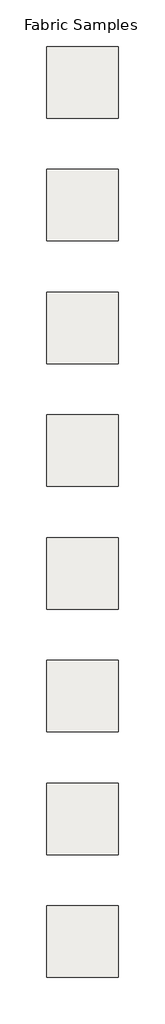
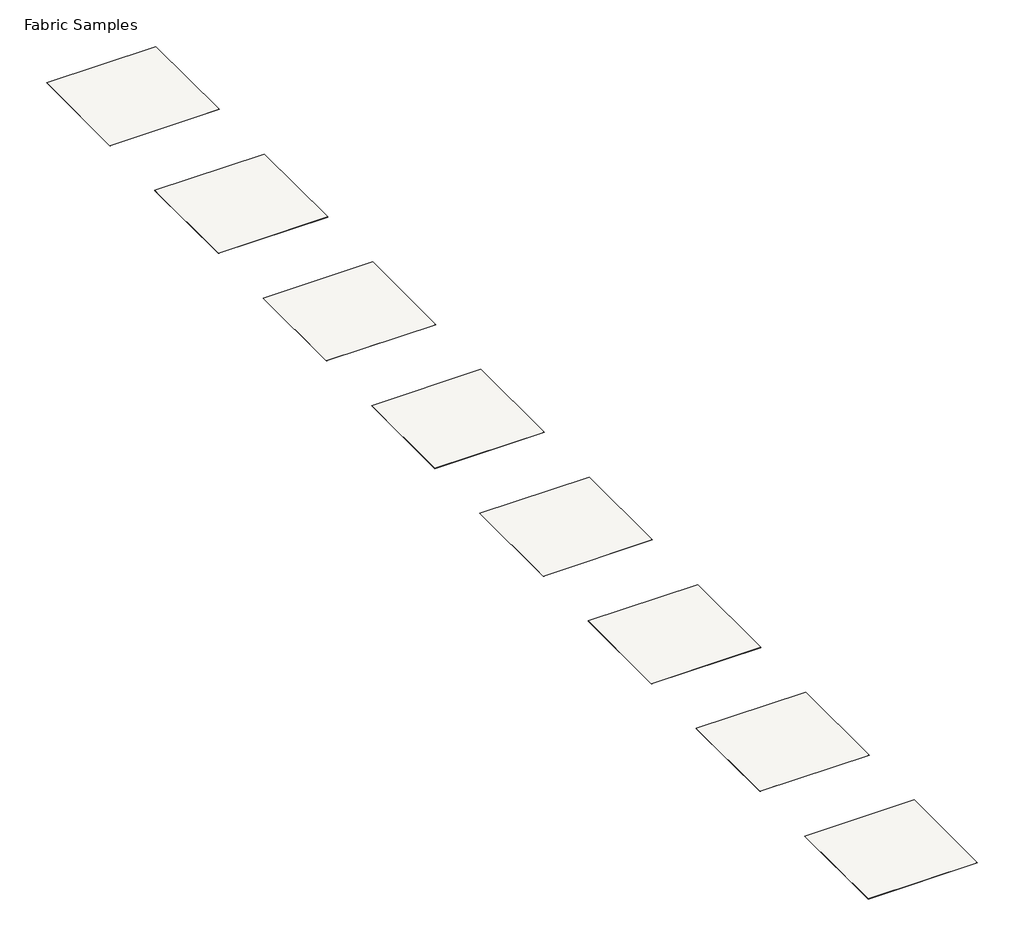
# One storey: 8 coverings.
"""IFC4 building model written with IfcOpenShell, lengths in millimetres."""

from ifc_helpers import new_model, si_unit, frame, origin, place, context, project, spatial, polyline, outline, extrude, element, save

model = new_model("IFC4")

# Units and contexts
model_context = context("Model", 3, world=origin())
ifc_project = project(units=[si_unit("LENGTHUNIT", "METRE", prefix="MILLI")], contexts=[model_context])

# Site, building, storey
site = spatial("IfcSite", under=ifc_project)
building = spatial("IfcBuilding", under=site)
storey = spatial("IfcBuildingStorey", under=building, Name="Fabric Samples", Elevation=0.0)

# Coverings
placement = place(None, origin())
element("IfcCovering", 1, ObjectType="CamiraFabrics_TxtlRllCvrngs_SynergyQuiltChevron_Serendipity_HQSV08", at=placement, inside=storey, context=model_context, shape_type="SweptSolid", body=[
    extrude(outline(polyline([(515.5073044, 1029.1514654), (515.5073044, -370.8485346), (-884.4926956, -370.8485346), (-884.4926956, 1029.1514654), (515.5073044, 1029.1514654)])), frame((0.0, 0.0, -2.0), z_axis=(0.0, 0.0, 1.0), x_axis=(1.0, 0.0, 0.0)), (0.0, 0.0, 1.0), 2.0),
])
element("IfcCovering", 2, ObjectType="CamiraFabrics_TxtlRllCvrngs_SynergyQuiltChevron_Mix_HQSV17", at=placement, inside=storey, context=model_context, shape_type="SweptSolid", body=[
    extrude(outline(polyline([(515.5073044, -1370.8485346), (515.5073044, -2770.8485346), (-884.4926956, -2770.8485346), (-884.4926956, -1370.8485346), (515.5073044, -1370.8485346)])), frame((0.0, 0.0, -2.0), z_axis=(0.0, 0.0, 1.0), x_axis=(1.0, 0.0, 0.0)), (0.0, 0.0, 1.0), 2.0),
])
element("IfcCovering", 3, ObjectType="CamiraFabrics_TxtlRllCvrngs_SynergyQuiltChevron_Chemistry_HQSV35", at=placement, inside=storey, context=model_context, shape_type="SweptSolid", body=[
    extrude(outline(polyline([(515.5073044, -3770.8485346), (515.5073044, -5170.8485346), (-884.4926956, -5170.8485346), (-884.4926956, -3770.8485346), (515.5073044, -3770.8485346)])), frame((0.0, 0.0, -2.0), z_axis=(0.0, 0.0, 1.0), x_axis=(1.0, 0.0, 0.0)), (0.0, 0.0, 1.0), 2.0),
])
element("IfcCovering", 4, ObjectType="CamiraFabrics_TxtlRllCvrngs_SynergyQuiltChevron_Support_HQSV55", at=placement, inside=storey, context=model_context, shape_type="SweptSolid", body=[
    extrude(outline(polyline([(515.5073044, -6170.8485346), (515.5073044, -7570.8485346), (-884.4926956, -7570.8485346), (-884.4926956, -6170.8485346), (515.5073044, -6170.8485346)])), frame((0.0, 0.0, -2.0), z_axis=(0.0, 0.0, 1.0), x_axis=(1.0, 0.0, 0.0)), (0.0, 0.0, 1.0), 2.0),
])
element("IfcCovering", 5, ObjectType="CamiraFabrics_TxtlRllCvrngs_SynergyQuiltChevron_Group_HQSV59", at=placement, inside=storey, context=model_context, shape_type="SweptSolid", body=[
    extrude(outline(polyline([(515.5073044, -8570.8485346), (515.5073044, -9970.8485346), (-884.4926956, -9970.8485346), (-884.4926956, -8570.8485346), (515.5073044, -8570.8485346)])), frame((0.0, 0.0, -2.0), z_axis=(0.0, 0.0, 1.0), x_axis=(1.0, 0.0, 0.0)), (0.0, 0.0, 1.0), 2.0),
])
element("IfcCovering", 6, ObjectType="CamiraFabrics_TxtlRllCvrngs_SynergyQuiltChevron_Alike_HQSV62", at=placement, inside=storey, context=model_context, shape_type="SweptSolid", body=[
    extrude(outline(polyline([(515.5073044, -10970.8485346), (515.5073044, -12370.8485346), (-884.4926956, -12370.8485346), (-884.4926956, -10970.8485346), (515.5073044, -10970.8485346)])), frame((0.0, 0.0, -2.0), z_axis=(0.0, 0.0, 1.0), x_axis=(1.0, 0.0, 0.0)), (0.0, 0.0, 1.0), 2.0),
])
element("IfcCovering", 7, ObjectType="CamiraFabrics_TxtlRllCvrngs_SynergyQuiltChevron_Sync_HQSV69", at=placement, inside=storey, context=model_context, shape_type="SweptSolid", body=[
    extrude(outline(polyline([(515.5073044, -13370.8485346), (515.5073044, -14770.8485346), (-884.4926956, -14770.8485346), (-884.4926956, -13370.8485346), (515.5073044, -13370.8485346)])), frame((0.0, 0.0, -2.0), z_axis=(0.0, 0.0, 1.0), x_axis=(1.0, 0.0, 0.0)), (0.0, 0.0, 1.0), 2.0),
])
element("IfcCovering", 8, ObjectType="CamiraFabrics_TxtlRllCvrngs_SynergyQuiltChevron_Mutual_HQSV84", at=placement, inside=storey, context=model_context, shape_type="SweptSolid", body=[
    extrude(outline(polyline([(515.5073044, -15770.8485346), (515.5073044, -17170.8485346), (-884.4926956, -17170.8485346), (-884.4926956, -15770.8485346), (515.5073044, -15770.8485346)])), frame((0.0, 0.0, -2.0), z_axis=(0.0, 0.0, 1.0), x_axis=(1.0, 0.0, 0.0)), (0.0, 0.0, 1.0), 2.0),
])

save(model, "model.ifc")
